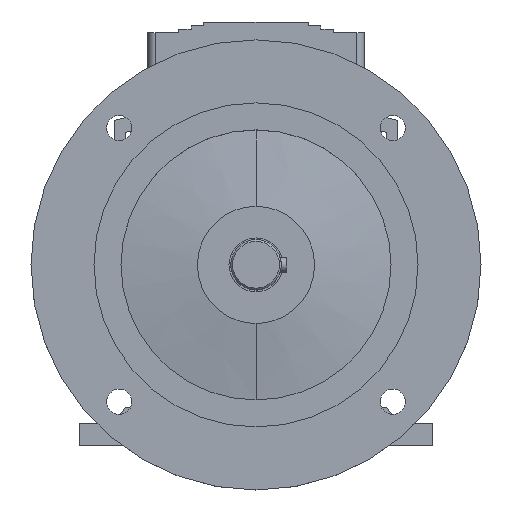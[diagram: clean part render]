
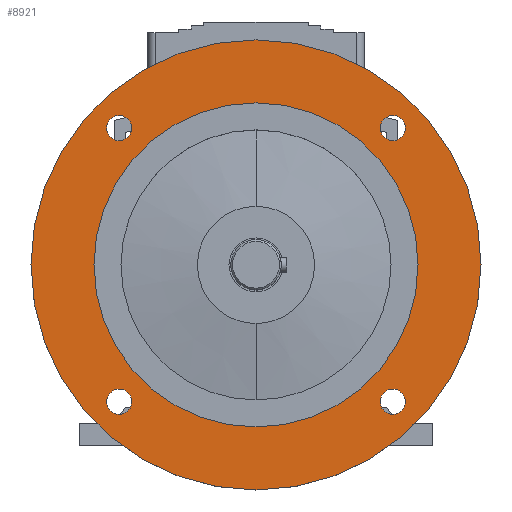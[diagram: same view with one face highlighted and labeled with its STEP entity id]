
A CAD part, top view. The second image highlights one B-rep face of the part: STEP entity #8921.
In plain terms, the highlighted planar face has unit normal (0, 0, 1).
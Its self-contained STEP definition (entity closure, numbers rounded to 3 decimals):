
#2652=CARTESIAN_POINT('',(-76.014,76.014,38.));
#2653=DIRECTION('',(0.,0.,-1.));
#2654=DIRECTION('',(-1.,0.,0.));
#2655=AXIS2_PLACEMENT_3D('',#2652,#2653,#2654);
#2657=CARTESIAN_POINT('',(-76.014,76.014,38.));
#2658=DIRECTION('',(0.,0.,-1.));
#2659=DIRECTION('',(1.,0.,0.));
#2660=AXIS2_PLACEMENT_3D('',#2657,#2658,#2659);
#2662=CARTESIAN_POINT('',(-76.014,-76.014,38.));
#2663=DIRECTION('',(0.,0.,-1.));
#2664=DIRECTION('',(-1.,0.,0.));
#2665=AXIS2_PLACEMENT_3D('',#2662,#2663,#2664);
#2667=CARTESIAN_POINT('',(-76.014,-76.014,38.));
#2668=DIRECTION('',(0.,0.,-1.));
#2669=DIRECTION('',(1.,0.,0.));
#2670=AXIS2_PLACEMENT_3D('',#2667,#2668,#2669);
#2672=CARTESIAN_POINT('',(76.014,-76.014,38.));
#2673=DIRECTION('',(0.,0.,-1.));
#2674=DIRECTION('',(-1.,0.,0.));
#2675=AXIS2_PLACEMENT_3D('',#2672,#2673,#2674);
#2677=CARTESIAN_POINT('',(76.014,-76.014,38.));
#2678=DIRECTION('',(0.,0.,-1.));
#2679=DIRECTION('',(1.,0.,0.));
#2680=AXIS2_PLACEMENT_3D('',#2677,#2678,#2679);
#2682=CARTESIAN_POINT('',(0.,0.,38.));
#2683=DIRECTION('',(0.,0.,1.));
#2684=DIRECTION('',(0.,1.,0.));
#2685=AXIS2_PLACEMENT_3D('',#2682,#2683,#2684);
#2687=CARTESIAN_POINT('',(0.,0.,38.));
#2688=DIRECTION('',(0.,0.,-1.));
#2689=DIRECTION('',(0.,1.,0.));
#2690=AXIS2_PLACEMENT_3D('',#2687,#2688,#2689);
#2692=CARTESIAN_POINT('',(76.014,76.014,38.));
#2693=DIRECTION('',(0.,0.,-1.));
#2694=DIRECTION('',(-1.,0.,0.));
#2695=AXIS2_PLACEMENT_3D('',#2692,#2693,#2694);
#2697=CARTESIAN_POINT('',(76.014,76.014,38.));
#2698=DIRECTION('',(0.,0.,-1.));
#2699=DIRECTION('',(1.,0.,0.));
#2700=AXIS2_PLACEMENT_3D('',#2697,#2698,#2699);
#2722=CARTESIAN_POINT('',(0.,0.,38.));
#2723=DIRECTION('',(0.,0.,-1.));
#2724=DIRECTION('',(0.,1.,0.));
#2725=AXIS2_PLACEMENT_3D('',#2722,#2723,#2724);
#2735=CARTESIAN_POINT('',(0.,0.,38.));
#2736=DIRECTION('',(0.,0.,1.));
#2737=DIRECTION('',(0.,1.,0.));
#2738=AXIS2_PLACEMENT_3D('',#2735,#2736,#2737);
#4035=CARTESIAN_POINT('',(0.,125.,38.));
#4037=VERTEX_POINT('',#4035);
#4038=CARTESIAN_POINT('',(0.,90.,38.));
#4040=VERTEX_POINT('',#4038);
#4043=CARTESIAN_POINT('',(0.,-125.,38.));
#4045=VERTEX_POINT('',#4043);
#4046=CARTESIAN_POINT('',(0.,-90.,38.));
#4048=VERTEX_POINT('',#4046);
#4054=CARTESIAN_POINT('',(69.014,76.014,38.));
#4055=CARTESIAN_POINT('',(83.014,76.014,38.));
#4056=VERTEX_POINT('',#4054);
#4057=VERTEX_POINT('',#4055);
#4062=CARTESIAN_POINT('',(69.014,-76.014,38.));
#4063=CARTESIAN_POINT('',(83.014,-76.014,38.));
#4064=VERTEX_POINT('',#4062);
#4065=VERTEX_POINT('',#4063);
#4070=CARTESIAN_POINT('',(-83.014,-76.014,38.));
#4071=CARTESIAN_POINT('',(-69.014,-76.014,38.));
#4072=VERTEX_POINT('',#4070);
#4073=VERTEX_POINT('',#4071);
#4078=CARTESIAN_POINT('',(-83.014,76.014,38.));
#4079=CARTESIAN_POINT('',(-69.014,76.014,38.));
#4080=VERTEX_POINT('',#4078);
#4081=VERTEX_POINT('',#4079);
#8881=CARTESIAN_POINT('',(0.,0.,38.));
#8882=DIRECTION('',(0.,0.,-1.));
#8883=DIRECTION('',(0.,-1.,0.));
#8884=AXIS2_PLACEMENT_3D('',#8881,#8882,#8883);
#8885=PLANE('',#8884);
#8887=ORIENTED_EDGE('',*,*,#8886,.F.);
#8889=ORIENTED_EDGE('',*,*,#8888,.T.);
#8890=EDGE_LOOP('',(#8887,#8889));
#8891=FACE_OUTER_BOUND('',#8890,.F.);
#8892=ORIENTED_EDGE('',*,*,#8871,.F.);
#8894=ORIENTED_EDGE('',*,*,#8893,.F.);
#8895=EDGE_LOOP('',(#8892,#8894));
#8896=FACE_BOUND('',#8895,.F.);
#8898=ORIENTED_EDGE('',*,*,#8897,.F.);
#8900=ORIENTED_EDGE('',*,*,#8899,.F.);
#8901=EDGE_LOOP('',(#8898,#8900));
#8902=FACE_BOUND('',#8901,.F.);
#8904=ORIENTED_EDGE('',*,*,#8903,.F.);
#8906=ORIENTED_EDGE('',*,*,#8905,.F.);
#8907=EDGE_LOOP('',(#8904,#8906));
#8908=FACE_BOUND('',#8907,.F.);
#8910=ORIENTED_EDGE('',*,*,#8909,.F.);
#8912=ORIENTED_EDGE('',*,*,#8911,.T.);
#8913=EDGE_LOOP('',(#8910,#8912));
#8914=FACE_BOUND('',#8913,.F.);
#8916=ORIENTED_EDGE('',*,*,#8915,.F.);
#8918=ORIENTED_EDGE('',*,*,#8917,.F.);
#8919=EDGE_LOOP('',(#8916,#8918));
#8920=FACE_BOUND('',#8919,.F.);
#8921=ADVANCED_FACE('',(#8891,#8896,#8902,#8908,#8914,#8920),#8885,.F.);
#2656=CIRCLE('',#2655,7.);
#2661=CIRCLE('',#2660,7.);
#2666=CIRCLE('',#2665,7.);
#2671=CIRCLE('',#2670,7.);
#2676=CIRCLE('',#2675,7.);
#2681=CIRCLE('',#2680,7.);
#2686=CIRCLE('',#2685,125.);
#2691=CIRCLE('',#2690,125.);
#2696=CIRCLE('',#2695,7.);
#2701=CIRCLE('',#2700,7.);
#2726=CIRCLE('',#2725,90.);
#2739=CIRCLE('',#2738,90.);
#8871=EDGE_CURVE('',#4080,#4081,#2656,.T.);
#8886=EDGE_CURVE('',#4037,#4045,#2686,.T.);
#8888=EDGE_CURVE('',#4037,#4045,#2691,.T.);
#8893=EDGE_CURVE('',#4081,#4080,#2661,.T.);
#8897=EDGE_CURVE('',#4072,#4073,#2666,.T.);
#8899=EDGE_CURVE('',#4073,#4072,#2671,.T.);
#8903=EDGE_CURVE('',#4064,#4065,#2676,.T.);
#8905=EDGE_CURVE('',#4065,#4064,#2681,.T.);
#8909=EDGE_CURVE('',#4040,#4048,#2726,.T.);
#8911=EDGE_CURVE('',#4040,#4048,#2739,.T.);
#8915=EDGE_CURVE('',#4056,#4057,#2696,.T.);
#8917=EDGE_CURVE('',#4057,#4056,#2701,.T.);
